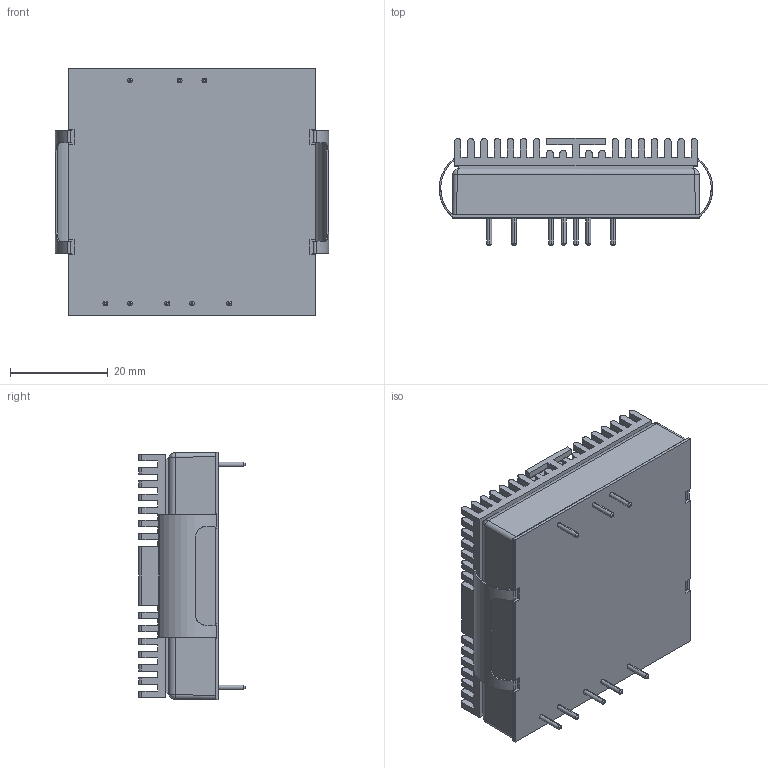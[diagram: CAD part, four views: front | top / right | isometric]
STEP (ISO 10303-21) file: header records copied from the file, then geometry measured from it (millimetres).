
FILE_DESCRIPTION (( 'STEP AP214' ), '1' );
FILE_NAME ('TEN 40WI-HS.STEP', '2018-11-01T05:09:30', ( 'user' ), ( '' ), 'SwSTEP 2.0', 'SolidWorks 2016', '' );
FILE_SCHEMA (( 'AUTOMOTIVE_DESIGN' ));
Length unit declared in the file: millimetre
Products named in the file (5): Clamp; Heatsink; Heatfilm; Converter; TEN 40WI-HS
Assembly tree (5 placements, depth 2):
  TEN 40WI-HS
    Converter
    Heatfilm
    Heatsink
    Clamp  x2
Bounding box: 56.09 x 21.9 x 50.8 mm (x, y, z)
Volume: 34452.1 mm3; surface area: 25458 mm2
Topology: 5 solids, 5 shells, 1591 faces, 4036 edges, 2668 vertices
Faces by surface type: plane 1245, cylinder 318, cone 16, bspline 12
Entity records: 63849 total; most frequent: CARTESIAN_POINT 8579, ORIENTED_EDGE 7836, DIRECTION 7616, EDGE_CURVE 3918, LINE 3278, VECTOR 3278, VERTEX_POINT 2596, AXIS2_PLACEMENT_3D 2169
